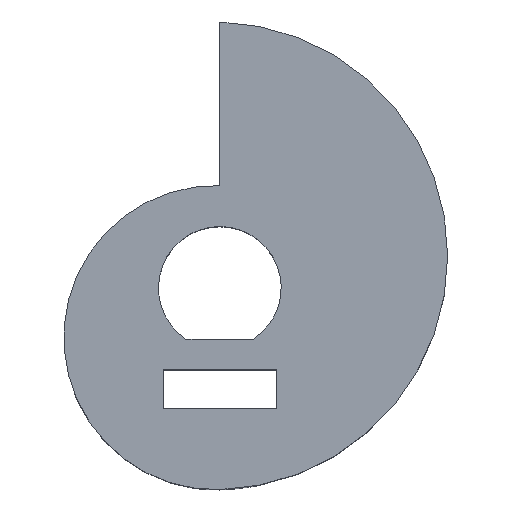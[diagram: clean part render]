
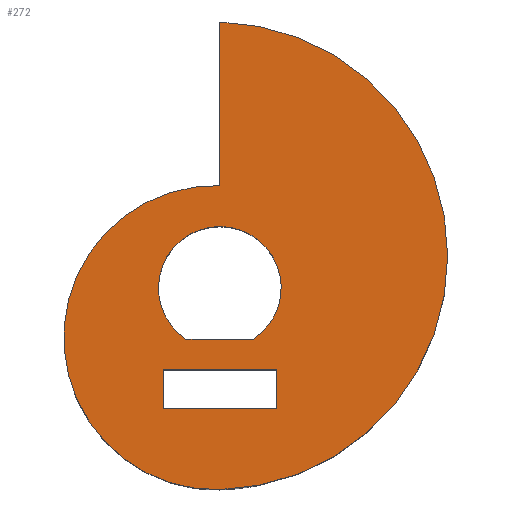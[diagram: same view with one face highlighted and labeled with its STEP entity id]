
A CAD part, top view. The second image highlights one B-rep face of the part: STEP entity #272.
In plain terms, the highlighted planar face has unit normal (0, 0, 1).
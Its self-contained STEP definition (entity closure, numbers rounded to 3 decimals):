
#40=PLANE('',#293);
#46=VECTOR('',#314,1.);
#49=VECTOR('',#318,1.);
#52=VECTOR('',#322,1.);
#55=VECTOR('',#326,1.);
#56=VECTOR('',#328,1.);
#61=VECTOR('',#346,1.);
#67=LINE('',#419,#46);
#70=LINE('',#425,#49);
#73=LINE('',#431,#52);
#76=LINE('',#436,#55);
#77=LINE('',#438,#56);
#82=LINE('',#456,#61);
#88=CIRCLE('',#280,11.436);
#89=CIRCLE('',#287,3.);
#91=CIRCLE('',#290,7.435);
#100=VERTEX_POINT('',#410);
#101=VERTEX_POINT('',#412);
#104=VERTEX_POINT('',#418);
#105=VERTEX_POINT('',#420);
#107=VERTEX_POINT('',#426);
#109=VERTEX_POINT('',#432);
#110=VERTEX_POINT('',#439);
#111=VERTEX_POINT('',#440);
#114=VERTEX_POINT('',#451);
#126=EDGE_CURVE('',#100,#101,#88,.T.);
#130=EDGE_CURVE('',#105,#104,#67,.T.);
#133=EDGE_CURVE('',#107,#105,#70,.T.);
#136=EDGE_CURVE('',#109,#107,#73,.T.);
#139=EDGE_CURVE('',#104,#109,#76,.T.);
#140=EDGE_CURVE('',#110,#111,#77,.T.);
#144=EDGE_CURVE('',#111,#110,#89,.T.);
#146=EDGE_CURVE('',#101,#114,#91,.T.);
#149=EDGE_CURVE('',#114,#100,#82,.T.);
#199=ORIENTED_EDGE('',*,*,#130,.T.);
#200=ORIENTED_EDGE('',*,*,#139,.T.);
#201=ORIENTED_EDGE('',*,*,#136,.T.);
#202=ORIENTED_EDGE('',*,*,#133,.T.);
#203=ORIENTED_EDGE('',*,*,#144,.T.);
#204=ORIENTED_EDGE('',*,*,#140,.T.);
#205=ORIENTED_EDGE('',*,*,#146,.F.);
#206=ORIENTED_EDGE('',*,*,#126,.F.);
#207=ORIENTED_EDGE('',*,*,#149,.F.);
#233=EDGE_LOOP('',(#199,#200,#201,#202));
#234=EDGE_LOOP('',(#203,#204));
#235=EDGE_LOOP('',(#205,#206,#207));
#255=FACE_BOUND('',#233,.T.);
#256=FACE_BOUND('',#234,.T.);
#257=FACE_BOUND('',#235,.T.);
#272=ADVANCED_FACE('',(#255,#256,#257),#40,.T.);
#280=AXIS2_PLACEMENT_3D('',#411,#309,#310);
#287=AXIS2_PLACEMENT_3D('',#447,#334,#335);
#290=AXIS2_PLACEMENT_3D('',#450,#340,#341);
#293=AXIS2_PLACEMENT_3D('',#458,#348,$);
#309=DIRECTION('',(0.,0.,-1.));
#310=DIRECTION('',(11.436,0.,0.));
#314=DIRECTION('',(-1.,0.,0.));
#318=DIRECTION('',(0.,-1.,0.));
#322=DIRECTION('',(1.,0.,0.));
#326=DIRECTION('',(0.,1.,0.));
#328=DIRECTION('',(-1.,0.,0.));
#334=DIRECTION('',(0.,0.,-1.));
#335=DIRECTION('',(3.,0.,0.));
#340=DIRECTION('',(0.,0.,-1.));
#341=DIRECTION('',(7.435,0.,0.));
#346=DIRECTION('',(0.,1.,0.));
#348=DIRECTION('',(0.,0.,1.));
#410=CARTESIAN_POINT('',(0.,13.,10.));
#411=CARTESIAN_POINT('',(-0.298,1.568,10.));
#412=CARTESIAN_POINT('',(0.,-9.864,10.));
#418=CARTESIAN_POINT('',(-2.775,-5.9,10.));
#419=CARTESIAN_POINT('',(0.913,-5.9,10.));
#420=CARTESIAN_POINT('',(2.775,-5.9,10.));
#425=CARTESIAN_POINT('',(2.775,-1.956,10.));
#426=CARTESIAN_POINT('',(2.775,-4.,10.));
#431=CARTESIAN_POINT('',(0.913,-4.,10.));
#432=CARTESIAN_POINT('',(-2.775,-4.,10.));
#436=CARTESIAN_POINT('',(-2.775,-1.956,10.));
#438=CARTESIAN_POINT('',(0.913,-2.5,10.));
#439=CARTESIAN_POINT('',(1.658,-2.5,10.));
#440=CARTESIAN_POINT('',(-1.658,-2.5,10.));
#447=CARTESIAN_POINT('',(0.,0.,10.));
#450=CARTESIAN_POINT('',(-0.194,-2.432,10.));
#451=CARTESIAN_POINT('',(0.,5.,10.));
#456=CARTESIAN_POINT('',(0.,5.,10.));
#458=CARTESIAN_POINT('',(1.825,1.038,10.));
